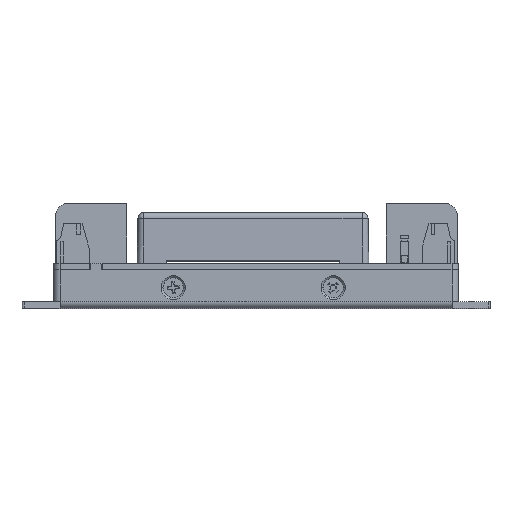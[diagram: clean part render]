
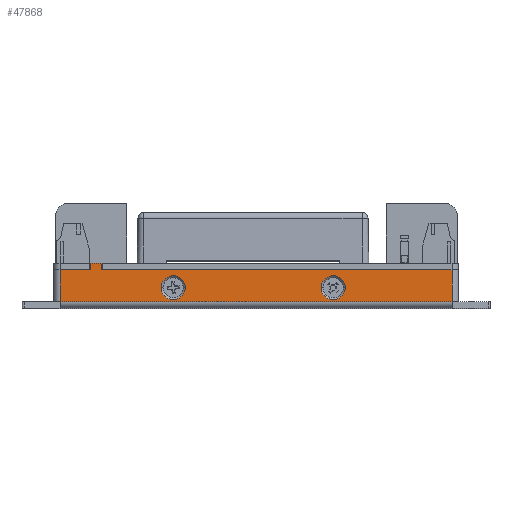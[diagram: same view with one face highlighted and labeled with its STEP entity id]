
A CAD part, top view. The second image highlights one B-rep face of the part: STEP entity #47868.
In plain terms, the highlighted planar face has unit normal (0, 0, 1).
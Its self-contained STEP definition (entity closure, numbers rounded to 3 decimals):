
#2223 = DIRECTION ( 'NONE',  ( 0., 1., 0. ) ) ;
#2224 = VECTOR ( 'NONE', #2223, 1000. ) ;
#2226 = CARTESIAN_POINT ( 'NONE',  ( 49., 9.6, 32.3 ) ) ;
#2228 = LINE ( 'NONE', #2226, #2224 ) ;
#2233 = DIRECTION ( 'NONE',  ( -1., 0., 0. ) ) ;
#2234 = VECTOR ( 'NONE', #2233, 1000. ) ;
#2236 = CARTESIAN_POINT ( 'NONE',  ( 49., 1.6, 32.3 ) ) ;
#2237 = LINE ( 'NONE', #2236, #2234 ) ;
#2287 = DIRECTION ( 'NONE',  ( 0., -1., 0. ) ) ;
#2289 = VECTOR ( 'NONE', #2287, 1000. ) ;
#2291 = CARTESIAN_POINT ( 'NONE',  ( -49., 1.7, 32.3 ) ) ;
#2292 = LINE ( 'NONE', #2291, #2289 ) ;
#2295 = DIRECTION ( 'NONE',  ( 0., -1., 0. ) ) ;
#2297 = VECTOR ( 'NONE', #2295, 1000. ) ;
#2299 = CARTESIAN_POINT ( 'NONE',  ( -41.5, 11.2, 32.3 ) ) ;
#2300 = LINE ( 'NONE', #2299, #2297 ) ;
#2306 = CARTESIAN_POINT ( 'NONE',  ( -41.5, 11.2, 32.3 ) ) ;
#2309 = DIRECTION ( 'NONE',  ( 1., 0., 0. ) ) ;
#2310 = VECTOR ( 'NONE', #2309, 1000. ) ;
#2312 = CARTESIAN_POINT ( 'NONE',  ( -41.5, 11.2, 32.3 ) ) ;
#2313 = LINE ( 'NONE', #2312, #2310 ) ;
#2317 = CARTESIAN_POINT ( 'NONE',  ( -38.5, 11.2, 32.3 ) ) ;
#2319 = DIRECTION ( 'NONE',  ( 0., -1., 0. ) ) ;
#2321 = VECTOR ( 'NONE', #2319, 1000. ) ;
#2323 = CARTESIAN_POINT ( 'NONE',  ( -38.5, 11.2, 32.3 ) ) ;
#2325 = LINE ( 'NONE', #2323, #2321 ) ;
#2371 = DIRECTION ( 'NONE',  ( 1., 0., 0. ) ) ;
#2373 = DIRECTION ( 'NONE',  ( 0., 0., 1. ) ) ;
#2375 = CARTESIAN_POINT ( 'NONE',  ( 19.3, 5.1, 32.3 ) ) ;
#2377 = AXIS2_PLACEMENT_3D ( 'NONE', #2375, #2373, #2371 ) ;
#2379 = CIRCLE ( 'NONE', #2377, 3. ) ;
#2384 = DIRECTION ( 'NONE',  ( 1., 0., 0. ) ) ;
#2386 = DIRECTION ( 'NONE',  ( 0., 0., 1. ) ) ;
#2388 = AXIS2_PLACEMENT_3D ( 'NONE', #2401, #2386, #2384 ) ;
#2390 = CIRCLE ( 'NONE', #2388, 3. ) ;
#2395 = DIRECTION ( 'NONE',  ( -1., 0., 0. ) ) ;
#2397 = DIRECTION ( 'NONE',  ( 0., 0., -1. ) ) ;
#2399 = AXIS2_PLACEMENT_3D ( 'NONE', #2405, #2397, #2395 ) ;
#2401 = CARTESIAN_POINT ( 'NONE',  ( -20.7, 5.1, 32.3 ) ) ;
#2405 = CARTESIAN_POINT ( 'NONE',  ( 49., 1.6, 32.3 ) ) ;
#2406 = PLANE ( 'NONE',  #2399 ) ;
#2407 = FACE_OUTER_BOUND ( 'NONE', #47877, .T. ) ;
#2409 = FACE_BOUND ( 'NONE', #47873, .T. ) ;
#2410 = FACE_BOUND ( 'NONE', #47869, .T. ) ;
#2601 = CARTESIAN_POINT ( 'NONE',  ( -23.7, 5.1, 32.3 ) ) ;
#10043 = DIRECTION ( 'NONE',  ( 1., 0., 0. ) ) ;
#10047 = DIRECTION ( 'NONE',  ( 0., 0., 1. ) ) ;
#10050 = CARTESIAN_POINT ( 'NONE',  ( 19.3, 5.1, 32.3 ) ) ;
#10054 = AXIS2_PLACEMENT_3D ( 'NONE', #10050, #10047, #10043 ) ;
#10057 = CIRCLE ( 'NONE', #10054, 3. ) ;
#10148 = CARTESIAN_POINT ( 'NONE',  ( 16.3, 5.1, 32.3 ) ) ;
#28973 = CARTESIAN_POINT ( 'NONE',  ( 22.3, 5.1, 32.3 ) ) ;
#43503 = VERTEX_POINT ( 'NONE', #67056 ) ;
#43507 = EDGE_CURVE ( 'NONE', #47929, #43503, #67052, .T. ) ;
#47058 = VERTEX_POINT ( 'NONE', #59122 ) ;
#47100 = VERTEX_POINT ( 'NONE', #59176 ) ;
#47103 = EDGE_CURVE ( 'NONE', #47104, #47100, #59174, .T. ) ;
#47104 = VERTEX_POINT ( 'NONE', #59170 ) ;
#47131 = VERTEX_POINT ( 'NONE', #59240 ) ;
#47133 = EDGE_CURVE ( 'NONE', #47058, #47131, #59239, .T. ) ;
#47262 = VERTEX_POINT ( 'NONE', #59459 ) ;
#47343 = EDGE_CURVE ( 'NONE', #47344, #47262, #59583, .T. ) ;
#47344 = VERTEX_POINT ( 'NONE', #59579 ) ;
#47348 = VERTEX_POINT ( 'NONE', #59635 ) ;
#47407 = EDGE_CURVE ( 'NONE', #47348, #47408, #59726, .T. ) ;
#47408 = VERTEX_POINT ( 'NONE', #59722 ) ;
#47799 = ORIENTED_EDGE ( 'NONE', *, *, #47103, .T. ) ;
#47839 = ORIENTED_EDGE ( 'NONE', *, *, #47840, .F. ) ;
#47840 = EDGE_CURVE ( 'NONE', #47408, #47262, #2237, .T. ) ;
#47841 = ORIENTED_EDGE ( 'NONE', *, *, #47407, .F. ) ;
#47842 = ORIENTED_EDGE ( 'NONE', *, *, #47843, .T. ) ;
#47843 = EDGE_CURVE ( 'NONE', #47348, #47104, #2228, .T. ) ;
#47853 = ORIENTED_EDGE ( 'NONE', *, *, #47854, .F. ) ;
#47854 = EDGE_CURVE ( 'NONE', #47855, #47100, #2325, .T. ) ;
#47855 = VERTEX_POINT ( 'NONE', #2317 ) ;
#47856 = ORIENTED_EDGE ( 'NONE', *, *, #47857, .F. ) ;
#47857 = EDGE_CURVE ( 'NONE', #47858, #47855, #2313, .T. ) ;
#47858 = VERTEX_POINT ( 'NONE', #2306 ) ;
#47859 = ORIENTED_EDGE ( 'NONE', *, *, #47860, .T. ) ;
#47860 = EDGE_CURVE ( 'NONE', #47858, #47058, #2300, .T. ) ;
#47861 = ORIENTED_EDGE ( 'NONE', *, *, #47133, .T. ) ;
#47862 = ORIENTED_EDGE ( 'NONE', *, *, #47863, .T. ) ;
#47863 = EDGE_CURVE ( 'NONE', #47131, #47344, #2292, .T. ) ;
#47864 = ORIENTED_EDGE ( 'NONE', *, *, #47343, .T. ) ;
#47868 = ADVANCED_FACE ( 'NONE', ( #2410, #2409, #2407 ), #2406, .F. ) ;
#47869 = EDGE_LOOP ( 'NONE', ( #47870, #47872 ) ) ;
#47870 = ORIENTED_EDGE ( 'NONE', *, *, #47871, .F. ) ;
#47871 = EDGE_CURVE ( 'NONE', #43503, #47929, #2390, .T. ) ;
#47872 = ORIENTED_EDGE ( 'NONE', *, *, #43507, .F. ) ;
#47873 = EDGE_LOOP ( 'NONE', ( #47874, #47876 ) ) ;
#47874 = ORIENTED_EDGE ( 'NONE', *, *, #47875, .F. ) ;
#47875 = EDGE_CURVE ( 'NONE', #61069, #50572, #2379, .T. ) ;
#47876 = ORIENTED_EDGE ( 'NONE', *, *, #51669, .F. ) ;
#47877 = EDGE_LOOP ( 'NONE', ( #47799, #47853, #47856, #47859, #47861, #47862, #47864, #47839, #47841, #47842 ) ) ;
#47929 = VERTEX_POINT ( 'NONE', #2601 ) ;
#50572 = VERTEX_POINT ( 'NONE', #10148 ) ;
#51669 = EDGE_CURVE ( 'NONE', #50572, #61069, #10057, .T. ) ;
#59122 = CARTESIAN_POINT ( 'NONE',  ( -41.5, 9.6, 32.3 ) ) ;
#59170 = CARTESIAN_POINT ( 'NONE',  ( 49., 9.6, 32.3 ) ) ;
#59171 = DIRECTION ( 'NONE',  ( -1., 0., 0. ) ) ;
#59172 = VECTOR ( 'NONE', #59171, 1000. ) ;
#59173 = CARTESIAN_POINT ( 'NONE',  ( 49., 9.6, 32.3 ) ) ;
#59174 = LINE ( 'NONE', #59173, #59172 ) ;
#59176 = CARTESIAN_POINT ( 'NONE',  ( -38.5, 9.6, 32.3 ) ) ;
#59236 = DIRECTION ( 'NONE',  ( -1., 0., 0. ) ) ;
#59237 = VECTOR ( 'NONE', #59236, 1000. ) ;
#59238 = CARTESIAN_POINT ( 'NONE',  ( 49., 9.6, 32.3 ) ) ;
#59239 = LINE ( 'NONE', #59238, #59237 ) ;
#59240 = CARTESIAN_POINT ( 'NONE',  ( -49., 9.6, 32.3 ) ) ;
#59459 = CARTESIAN_POINT ( 'NONE',  ( -49., 1.6, 32.3 ) ) ;
#59579 = CARTESIAN_POINT ( 'NONE',  ( -49., 1.7, 32.3 ) ) ;
#59580 = DIRECTION ( 'NONE',  ( 0., -1., 0. ) ) ;
#59581 = VECTOR ( 'NONE', #59580, 1000. ) ;
#59582 = CARTESIAN_POINT ( 'NONE',  ( -49., 1.6, 32.3 ) ) ;
#59583 = LINE ( 'NONE', #59582, #59581 ) ;
#59635 = CARTESIAN_POINT ( 'NONE',  ( 49., 1.7, 32.3 ) ) ;
#59722 = CARTESIAN_POINT ( 'NONE',  ( 49., 1.6, 32.3 ) ) ;
#59723 = DIRECTION ( 'NONE',  ( 0., -1., 0. ) ) ;
#59724 = VECTOR ( 'NONE', #59723, 1000. ) ;
#59725 = CARTESIAN_POINT ( 'NONE',  ( 49., 1.6, 32.3 ) ) ;
#59726 = LINE ( 'NONE', #59725, #59724 ) ;
#61069 = VERTEX_POINT ( 'NONE', #28973 ) ;
#67045 = DIRECTION ( 'NONE',  ( 1., 0., 0. ) ) ;
#67046 = DIRECTION ( 'NONE',  ( 0., 0., 1. ) ) ;
#67047 = CARTESIAN_POINT ( 'NONE',  ( -20.7, 5.1, 32.3 ) ) ;
#67048 = AXIS2_PLACEMENT_3D ( 'NONE', #67047, #67046, #67045 ) ;
#67052 = CIRCLE ( 'NONE', #67048, 3. ) ;
#67056 = CARTESIAN_POINT ( 'NONE',  ( -17.7, 5.1, 32.3 ) ) ;
